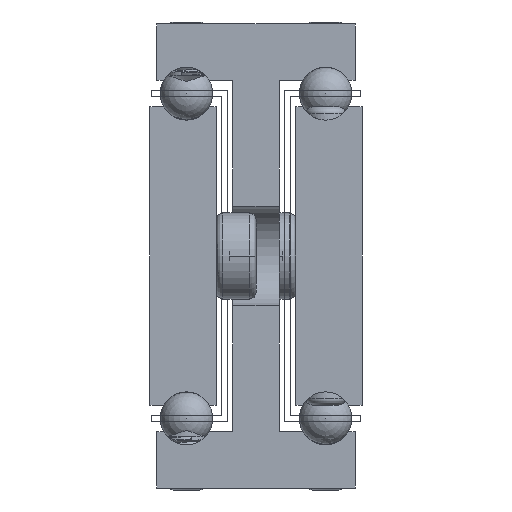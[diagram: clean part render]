
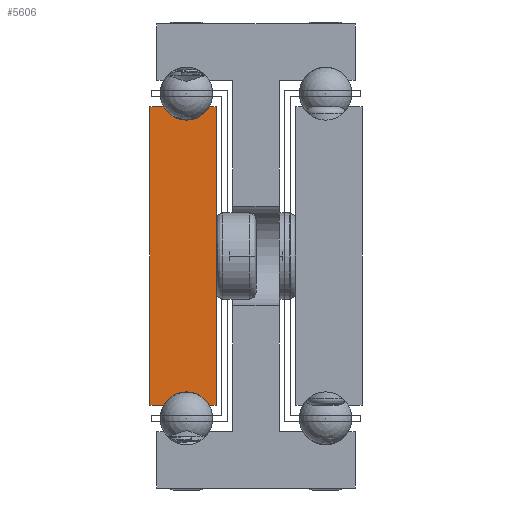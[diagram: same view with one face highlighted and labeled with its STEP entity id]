
A CAD part, front view. The second image highlights one B-rep face of the part: STEP entity #5606.
In plain terms, the highlighted planar face has unit normal (0, -1, 0).
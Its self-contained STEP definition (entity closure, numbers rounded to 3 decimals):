
#733=CIRCLE('',#5975,4.);
#735=CIRCLE('',#5978,4.);
#1194=FACE_OUTER_BOUND('',#1530,.T.);
#1530=EDGE_LOOP('',(#4720,#4721,#4722,#4723,#4724,#4725,#4726,#4727));
#2048=LINE('',#12105,#2344);
#2049=LINE('',#12107,#2345);
#2050=LINE('',#12109,#2346);
#2051=LINE('',#12110,#2347);
#2052=LINE('',#12112,#2348);
#2053=LINE('',#12113,#2349);
#2344=VECTOR('',#6932,1.);
#2345=VECTOR('',#6933,1.);
#2346=VECTOR('',#6934,1.);
#2347=VECTOR('',#6935,1.);
#2348=VECTOR('',#6936,1.);
#2349=VECTOR('',#6937,1.);
#2722=VERTEX_POINT('',#11860);
#2724=VERTEX_POINT('',#11864);
#2730=VERTEX_POINT('',#11957);
#2732=VERTEX_POINT('',#11961);
#2757=VERTEX_POINT('',#12104);
#2758=VERTEX_POINT('',#12106);
#2759=VERTEX_POINT('',#12108);
#2760=VERTEX_POINT('',#12111);
#3509=EDGE_CURVE('',#2722,#2724,#733,.T.);
#3517=EDGE_CURVE('',#2730,#2732,#735,.T.);
#3544=EDGE_CURVE('',#2757,#2722,#2048,.T.);
#3545=EDGE_CURVE('',#2724,#2758,#2049,.T.);
#3546=EDGE_CURVE('',#2758,#2759,#2050,.T.);
#3547=EDGE_CURVE('',#2759,#2730,#2051,.T.);
#3548=EDGE_CURVE('',#2732,#2760,#2052,.T.);
#3549=EDGE_CURVE('',#2760,#2757,#2053,.T.);
#4720=ORIENTED_EDGE('',*,*,#3544,.T.);
#4721=ORIENTED_EDGE('',*,*,#3509,.T.);
#4722=ORIENTED_EDGE('',*,*,#3545,.T.);
#4723=ORIENTED_EDGE('',*,*,#3546,.T.);
#4724=ORIENTED_EDGE('',*,*,#3547,.T.);
#4725=ORIENTED_EDGE('',*,*,#3517,.T.);
#4726=ORIENTED_EDGE('',*,*,#3548,.T.);
#4727=ORIENTED_EDGE('',*,*,#3549,.T.);
#5395=PLANE('',#6004);
#5606=ADVANCED_FACE('',(#1194),#5395,.T.);
#5975=AXIS2_PLACEMENT_3D('',#11866,#6864,#6865);
#5978=AXIS2_PLACEMENT_3D('',#11963,#6872,#6873);
#6004=AXIS2_PLACEMENT_3D('',#12103,#6930,#6931);
#6864=DIRECTION('center_axis',(0.,1.,0.));
#6865=DIRECTION('ref_axis',(0.866,0.,-0.5));
#6872=DIRECTION('center_axis',(0.,1.,0.));
#6873=DIRECTION('ref_axis',(-0.866,0.,0.5));
#6930=DIRECTION('center_axis',(0.,-1.,0.));
#6931=DIRECTION('ref_axis',(1.,0.,0.));
#6932=DIRECTION('',(-1.,0.,0.));
#6933=DIRECTION('',(-1.,0.,0.));
#6934=DIRECTION('',(0.,0.,-1.));
#6935=DIRECTION('',(1.,0.,0.));
#6936=DIRECTION('',(1.,0.,0.));
#6937=DIRECTION('',(0.,0.,1.));
#11860=CARTESIAN_POINT('',(-1112.235,-519.76,122.8));
#11864=CARTESIAN_POINT('',(-1119.164,-519.76,122.8));
#11866=CARTESIAN_POINT('Origin',(-1115.699,-519.76,124.8));
#11957=CARTESIAN_POINT('',(-1119.164,-519.76,77.8));
#11961=CARTESIAN_POINT('',(-1112.235,-519.76,77.8));
#11963=CARTESIAN_POINT('Origin',(-1115.699,-519.76,75.8));
#12103=CARTESIAN_POINT('Origin',(-1116.205,-519.76,100.3));
#12104=CARTESIAN_POINT('',(-1111.199,-519.76,122.8));
#12105=CARTESIAN_POINT('',(-1111.199,-519.76,122.8));
#12106=CARTESIAN_POINT('',(-1121.199,-519.76,122.8));
#12107=CARTESIAN_POINT('',(-1119.164,-519.76,122.8));
#12108=CARTESIAN_POINT('',(-1121.199,-519.76,77.8));
#12109=CARTESIAN_POINT('',(-1121.199,-519.76,122.8));
#12110=CARTESIAN_POINT('',(-1121.199,-519.76,77.8));
#12111=CARTESIAN_POINT('',(-1111.199,-519.76,77.8));
#12112=CARTESIAN_POINT('',(-1112.235,-519.76,77.8));
#12113=CARTESIAN_POINT('',(-1111.199,-519.76,77.8));
